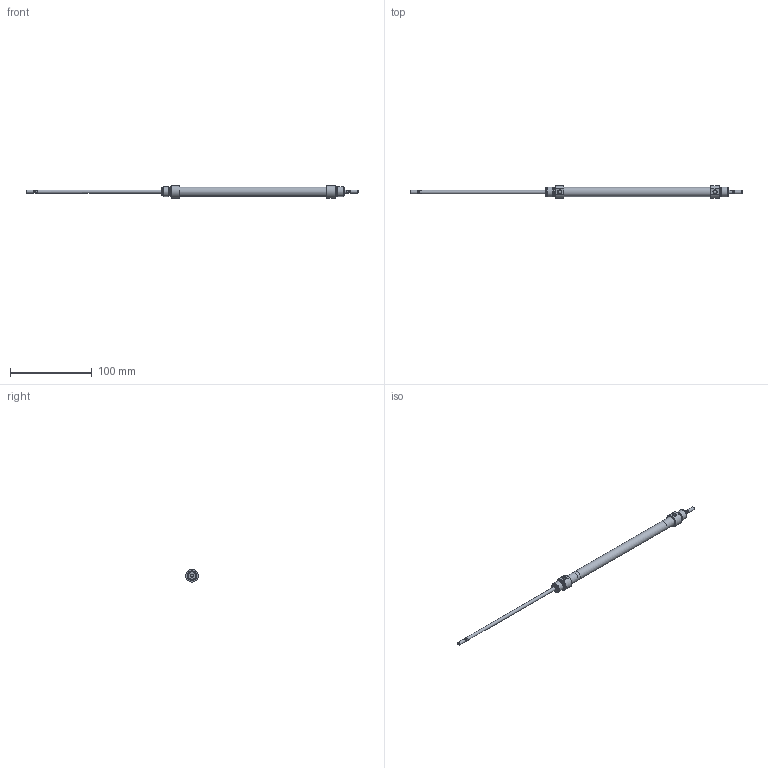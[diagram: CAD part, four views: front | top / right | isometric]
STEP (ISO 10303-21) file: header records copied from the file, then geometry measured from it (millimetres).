
FILE_DESCRIPTION( ( 'STEP AP203' ), '1' );
FILE_NAME( '//expscmdclustefs.cadenas.external/client_exchange/iodir/jobs/output/wkb68274587_no0/STEP/M101-010-0150-M__0__2_03.stp', ' ', ( ' ' ), ( ' ' ), 'PSStep 15.0.47', 'PARTsolutions', ' ' );
FILE_SCHEMA( ( 'CONFIG_CONTROL_DESIGN' ) );
Length unit declared in the file: millimetre
Products named in the file (3): M101-010-0150-M [0]; HI_M101-010-0150-M-[0]-z; HI_M101-010-0150-M-[0]-k
Assembly tree (2 placements, depth 2):
  M101-010-0150-M [0]
    HI_M101-010-0150-M-[0]-z
    HI_M101-010-0150-M-[0]-k
Bounding box: 406 x 15.77 x 14.87 mm (x, y, z)
Volume: 16641.9 mm3; surface area: 20086 mm2
Topology: 2 solids, 2 shells, 71 faces, 145 edges, 88 vertices
Faces by surface type: plane 32, cylinder 23, cone 14, torus 2
Full cylindrical faces by diameter (mm): 3.141 x2, 4 x6, 4.134 x2, 10 x2, 10.466 x4, 11.3 x1, 12 x4
Entity records: 1838 total; most frequent: CARTESIAN_POINT 358, DIRECTION 312, ORIENTED_EDGE 212, AXIS2_PLACEMENT_3D 140, EDGE_LOOP 120, EDGE_CURVE 106, FACE_OUTER_BOUND 94, VERTEX_POINT 82
